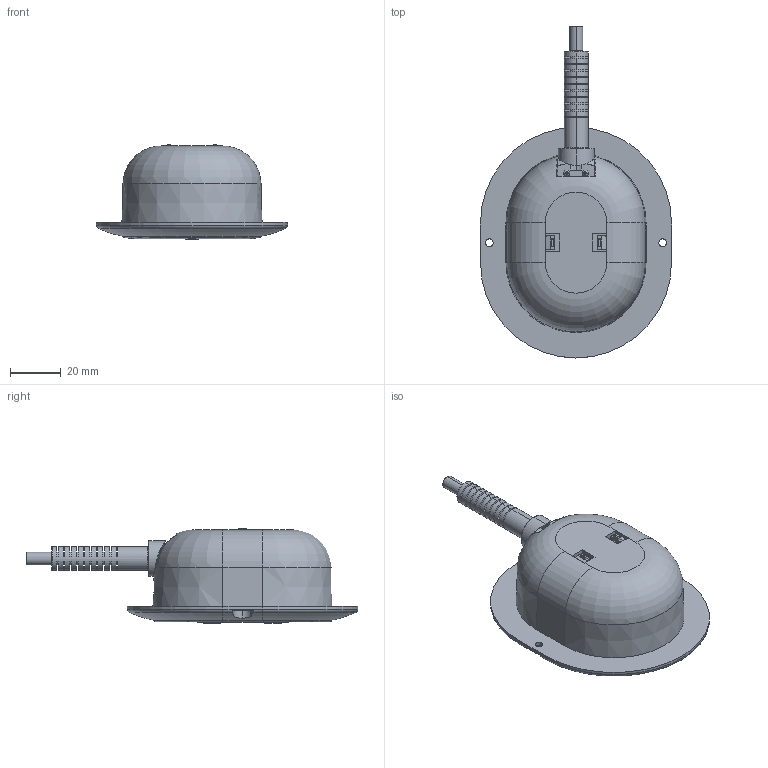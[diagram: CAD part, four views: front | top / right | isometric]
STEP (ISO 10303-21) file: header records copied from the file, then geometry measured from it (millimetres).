
FILE_DESCRIPTION (( 'STEP AP203' ), '1' );
FILE_NAME ('3D-TH4-2Buttons-A.STEP', '2010-03-17T02:59:31', ( 'Jeremy' ), ( 'Microsoft' ), 'SwSTEP 2.0', 'SolidWorks 2005179', '' );
FILE_SCHEMA (( 'CONFIG_CONTROL_DESIGN' ));
Length unit declared in the file: millimetre
Products named in the file (1): 3D-TH4-2Buttons-A
Bounding box: 75 x 130.29 x 37.13 mm (x, y, z)
Volume: 116177.1 mm3; surface area: 22286.4 mm2
Topology: 1 solids, 3 shells, 368 faces, 991 edges, 628 vertices
Faces by surface type: plane 203, cylinder 96, bspline 30, torus 29, cone 6, sphere 4
Entity records: 22338 total; most frequent: CARTESIAN_POINT 13206, ORIENTED_EDGE 1974, DIRECTION 1830, EDGE_CURVE 987, AXIS2_PLACEMENT_3D 665, VERTEX_POINT 628, LINE 500, VECTOR 500
